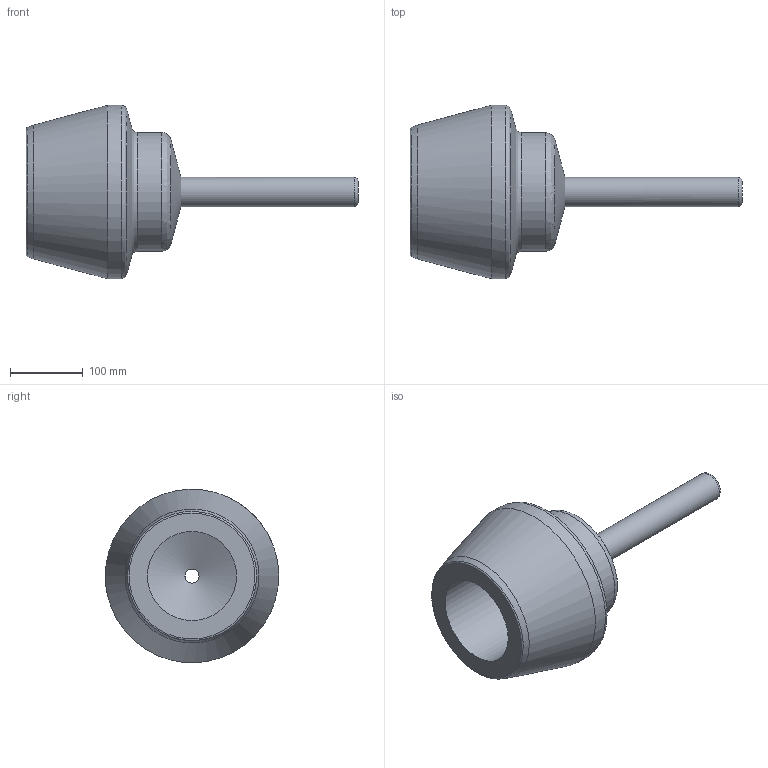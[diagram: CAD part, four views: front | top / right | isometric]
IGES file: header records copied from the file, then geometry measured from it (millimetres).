
Global section: file name: SRPC-4-1; native system: Autodesk Inventor 2016; preprocessor: unknown; author: DESIGNPC2; date: 20151219.132952; units: millimetre
Bounding box: 457.2 x 238.76 x 238.69 mm (x, y, z)
Volume: 5412086.4 mm3; surface area: 278038.6 mm2
Topology: 1 solids, 1 shells, 17 faces, 57 edges, 42 vertices
Faces by surface type: bspline 17
